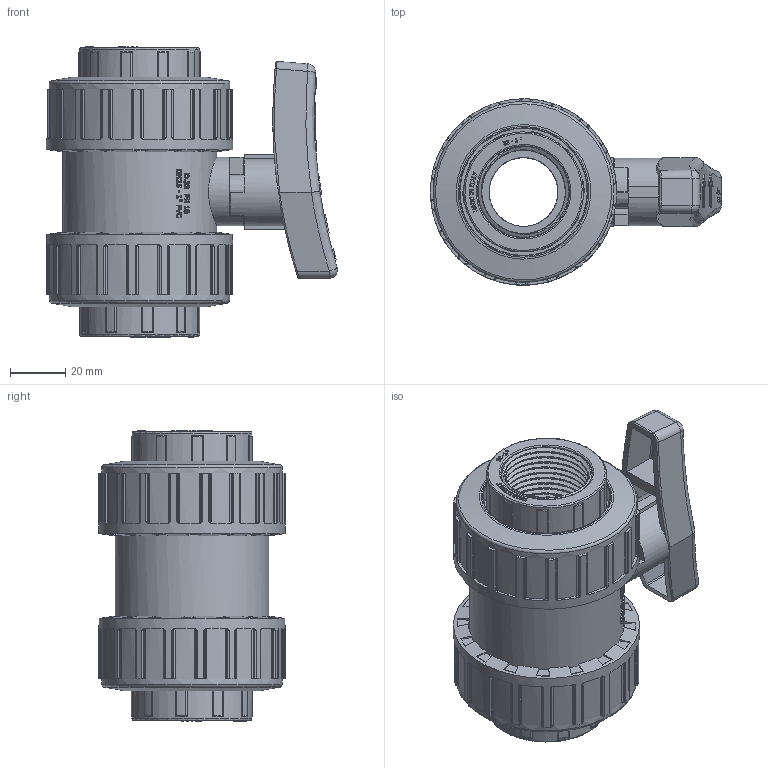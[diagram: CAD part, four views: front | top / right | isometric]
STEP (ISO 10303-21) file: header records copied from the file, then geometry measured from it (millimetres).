
FILE_DESCRIPTION(/* description */ (''),/* implementation_level */ '2;1');
FILE_NAME(/* name */ 'C:\ex desktop\VALVOLE SFERA\BV ACQUA\VALVOLE ACQUA FILETTATE\BVD41032\BVD41032_new_handle.stp',/* time_stamp */ '2019-04-02T14:52:22+02:00',/* author */ ('e.sacchi'),/* organization */ (''),/* preprocessor_version */ 'ST-DEVELOPER v16.13',/* originating_system */ 'Autodesk Inventor 2018',/* authorisation */ '');
FILE_SCHEMA (('AUTOMOTIVE_DESIGN { 1 0 10303 214 3 1 1 }'));
Length unit declared in the file: millimetre
Products named in the file (13): BVID40032; corpo_BVD_40_d_32; SFERA_BVI_10_d_32; ASTA_BVI_40_d_32; LAV0108ES; supporto_BVD_40_d_32; LAV2118E; PTFE_BVI_10_d_32; LAV0144E; LAV4125E; COLLARE_BVD_10_D32; GHIERA_BVI_40_d_32; maniglia_BVI_10_d_32
Assembly tree (18 placements, depth 2):
  BVID40032
    corpo_BVD_40_d_32
    LAV2118E  x2
    PTFE_BVI_10_d_32  x2
    SFERA_BVI_10_d_32
    ASTA_BVI_40_d_32
    LAV0108ES  x2
    supporto_BVD_40_d_32
    LAV0144E
    LAV4125E  x2
    COLLARE_BVD_10_D32  x2
    GHIERA_BVI_40_d_32  x2
    maniglia_BVI_10_d_32
Bounding box: 105.52 x 67.5 x 105.2 mm (x, y, z)
Volume: 224219.4 mm3; surface area: 122793.1 mm2
Topology: 20 solids, 20 shells, 2015 faces, 5476 edges, 3599 vertices
Faces by surface type: plane 984, cylinder 450, bspline 435, torus 123, cone 14, sphere 9
Full cylindrical faces by diameter (mm): 9.556 x1, 10.156 x1, 11.5 x1, 12 x1, 12.15 x1, 24.8 x1, 25 x5, 29.5 x2, 31 x2, 33.25 x4, 34 x4, 38.5 x1, 38.6 x1, 40 x1, 43.5 x4, 44 x3, 45 x1, 50 x1, 55.8 x7, 56.6 x12, 65.5 x2, 67.5 x2
Entity records: 63016 total; most frequent: CARTESIAN_POINT 29017, ORIENTED_EDGE 7534, DIRECTION 6064, EDGE_CURVE 3767, VERTEX_POINT 2507, AXIS2_PLACEMENT_3D 2066, LINE 1932, VECTOR 1932
